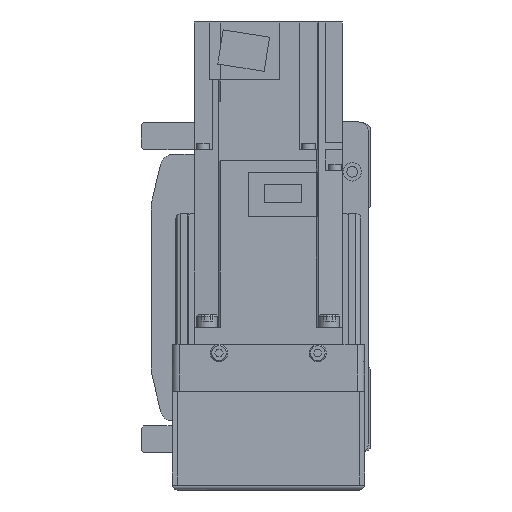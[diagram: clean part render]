
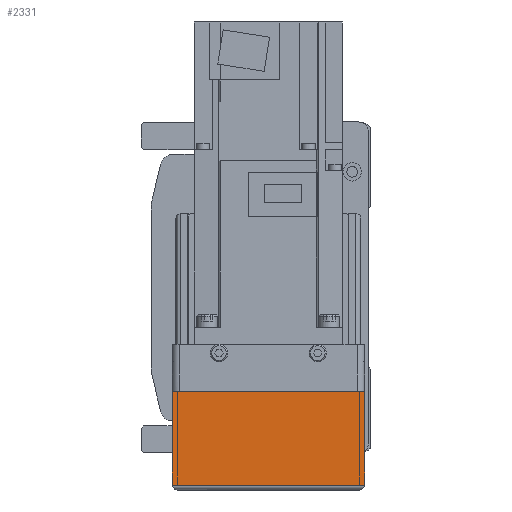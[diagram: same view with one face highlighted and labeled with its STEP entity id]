
A CAD part, left-side view. The second image highlights one B-rep face of the part: STEP entity #2331.
In plain terms, the highlighted planar face has unit normal (-1, 0, 0).
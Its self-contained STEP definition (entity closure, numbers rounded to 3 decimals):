
#2331 = ADVANCED_FACE( '', ( #5125 ), #5126, .F. );
#5125 = FACE_OUTER_BOUND( '', #8381, .T. );
#5126 = PLANE( '', #8382 );
#8381 = EDGE_LOOP( '', ( #15141, #15142, #15143, #15144 ) );
#8382 = AXIS2_PLACEMENT_3D( '', #15145, #15146, #15147 );
#15141 = ORIENTED_EDGE( '', *, *, #21237, .F. );
#15142 = ORIENTED_EDGE( '', *, *, #21238, .F. );
#15143 = ORIENTED_EDGE( '', *, *, #21239, .T. );
#15144 = ORIENTED_EDGE( '', *, *, #21240, .F. );
#15145 = CARTESIAN_POINT( '', ( -158., 36., 7. ) );
#15146 = DIRECTION( '', ( 1., 0., 0. ) );
#15147 = DIRECTION( '', ( 0., 0., -1. ) );
#21237 = EDGE_CURVE( '', #26233, #26234, #26235, .T. );
#21238 = EDGE_CURVE( '', #26236, #26233, #26237, .T. );
#21239 = EDGE_CURVE( '', #26236, #25196, #26238, .T. );
#21240 = EDGE_CURVE( '', #26234, #25196, #26239, .T. );
#25196 = VERTEX_POINT( '', #31908 );
#26233 = VERTEX_POINT( '', #33422 );
#26234 = VERTEX_POINT( '', #33423 );
#26235 = LINE( '', #33424, #33425 );
#26236 = VERTEX_POINT( '', #33426 );
#26237 = LINE( '', #33427, #33428 );
#26238 = LINE( '', #33429, #33430 );
#26239 = LINE( '', #33431, #33432 );
#31908 = CARTESIAN_POINT( '', ( -158., -39., -50. ) );
#33422 = CARTESIAN_POINT( '', ( -158., 39., -12.1 ) );
#33423 = CARTESIAN_POINT( '', ( -158., -39., -12.1 ) );
#33424 = CARTESIAN_POINT( '', ( -158., 50., -12.1 ) );
#33425 = VECTOR( '', #37957, 1000. );
#33426 = CARTESIAN_POINT( '', ( -158., 39., -50. ) );
#33427 = CARTESIAN_POINT( '', ( -158., 39., -50. ) );
#33428 = VECTOR( '', #37958, 1000. );
#33429 = CARTESIAN_POINT( '', ( -158., 40., -50. ) );
#33430 = VECTOR( '', #37959, 1000. );
#33431 = CARTESIAN_POINT( '', ( -158., -39., -12.1 ) );
#33432 = VECTOR( '', #37960, 1000. );
#37957 = DIRECTION( '', ( 0., -1., 0. ) );
#37958 = DIRECTION( '', ( 0., 0., 1. ) );
#37959 = DIRECTION( '', ( 0., -1., 0. ) );
#37960 = DIRECTION( '', ( 0., 0., -1. ) );
